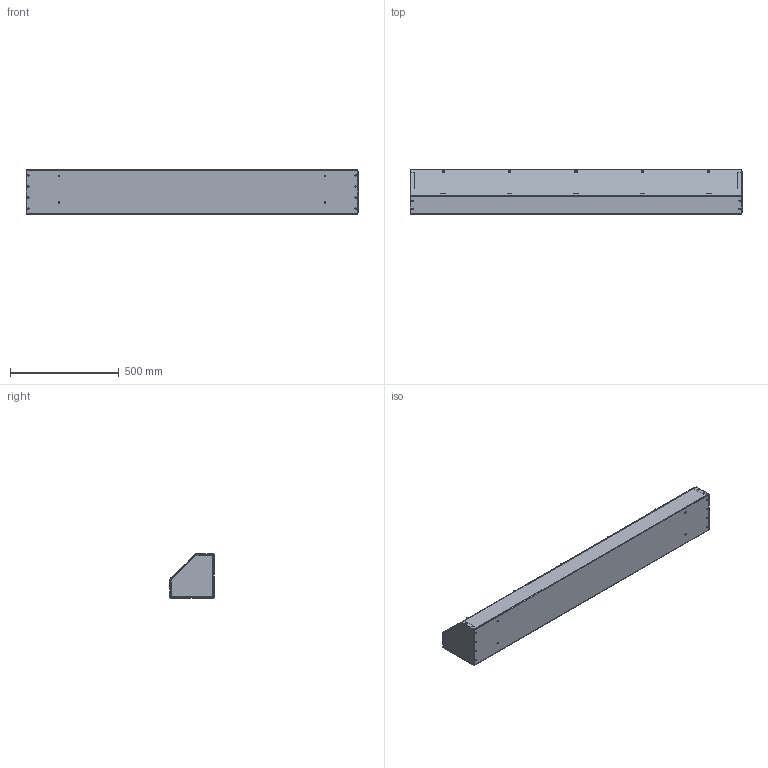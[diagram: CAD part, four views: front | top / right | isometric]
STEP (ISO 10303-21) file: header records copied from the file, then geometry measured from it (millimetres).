
FILE_DESCRIPTION (( 'STEP AP203' ), '1' );
FILE_NAME ('at6660.STEP', '2017-10-03T16:41:03', ( '' ), ( '' ), 'SwSTEP 2.0', 'SolidWorks 2014', '' );
FILE_SCHEMA (( 'CONFIG_CONTROL_DESIGN' ));
Length unit declared in the file: inch
Products named in the file (8): 89159134 ; 16111002_INSTALLED .144 THICKNESS; 87791796_PANHTS 0.19-32-type I-F-0.563-S; 87780048; at6660; 89159111 ; 89159155 ; 89159122 
Assembly tree (35 placements, depth 3):
  at6660
    89159155 
      89159111 
      89159122   x2
      16111002_INSTALLED .144 THICKNESS  x24
    89159134 
    87791796_PANHTS 0.19-32-type I-F-0.563-S  x5
    87780048
Bounding box: 1524 x 205.03 x 205.03 mm (x, y, z)
Volume: 2296290.3 mm3; surface area: 2541539.9 mm2
Topology: 34 solids, 34 shells, 1744 faces, 4449 edges, 2797 vertices
Faces by surface type: plane 994, cylinder 444, cone 154, bspline 112, torus 40
Entity records: 22431 total; most frequent: CARTESIAN_POINT 4307, DIRECTION 3471, ORIENTED_EDGE 3460, EDGE_CURVE 1730, AXIS2_PLACEMENT_3D 1192, VERTEX_POINT 1108, LINE 1087, VECTOR 1087
